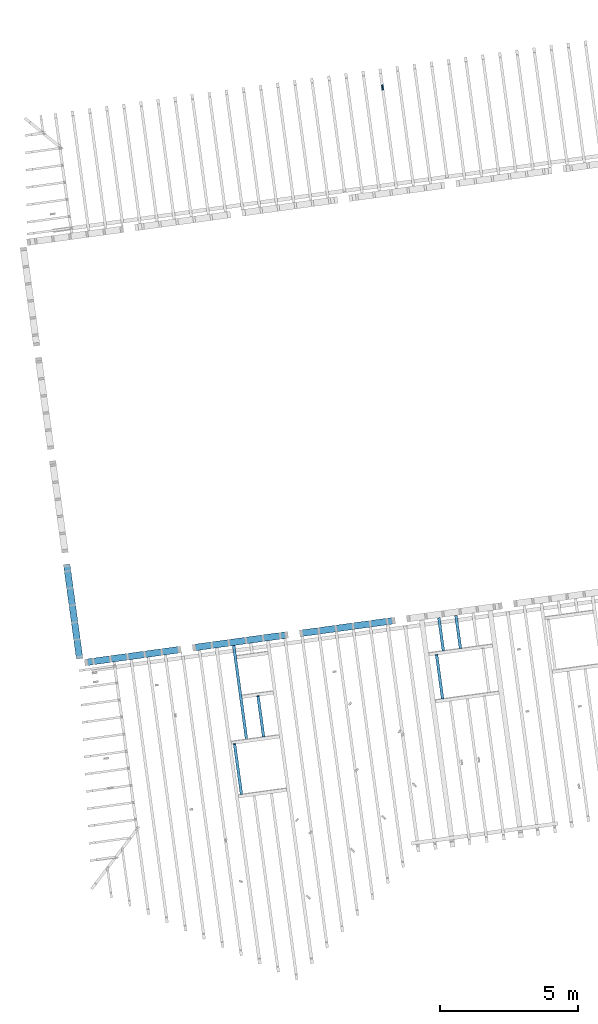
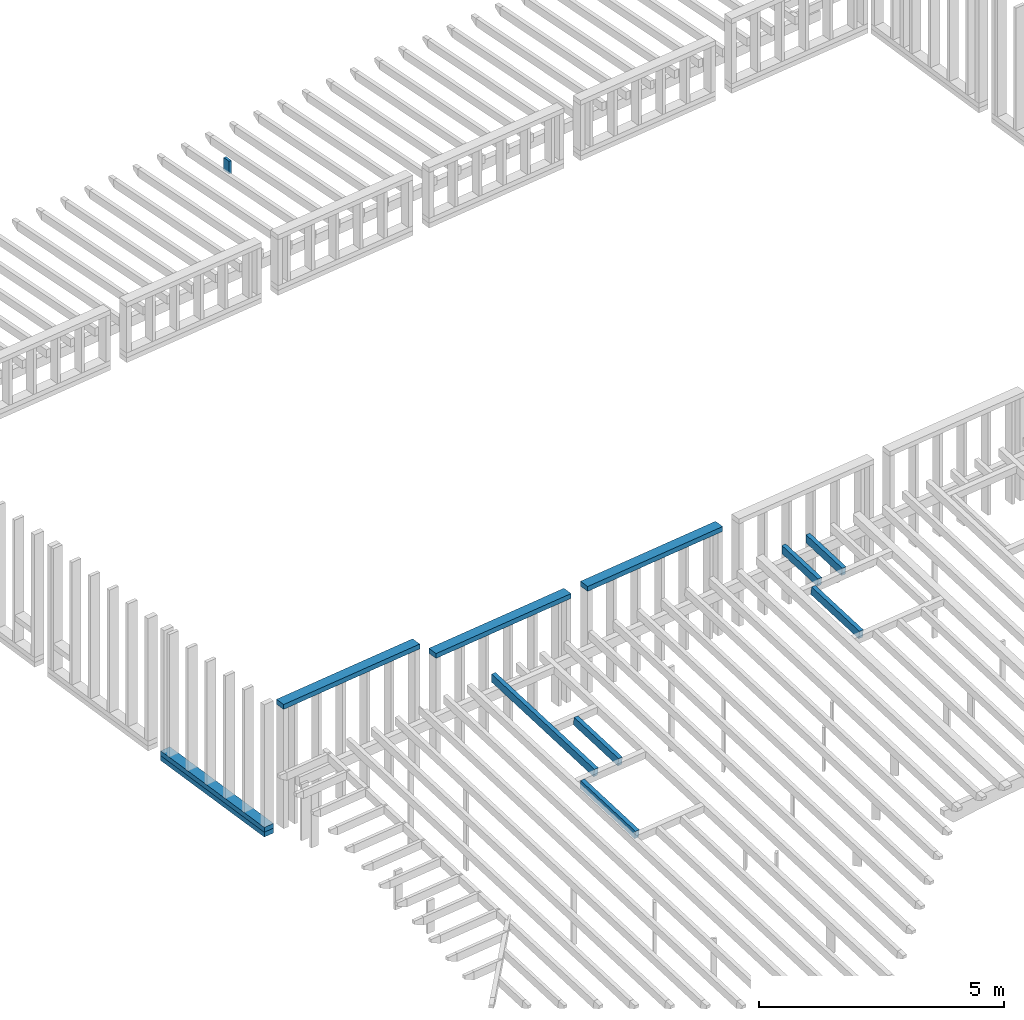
# One storey, part 4 of 16: 11 beams, 1 column.
"""IFC2X3 building model written with IfcOpenShell, lengths in metres."""

from ifc_helpers import new_model, entity, si_unit, converted_unit, derived_unit, money_unit, direction, frame, frame_2d, origin_with_axes, origin_2d_with_axis, place, context, subcontext, project, spatial, rectangle, extrude, clip, halfspace, material, type_object, element, save


model = new_model("IFC2X3")

# Units and contexts
model_context = context("Model", 3, precision=1e-05, world=origin_with_axes(), true_north=direction((0.0, 1.0)))
body_context = subcontext(model_context, "Body", "Model", "MODEL_VIEW")
ifc_project = project(units=[si_unit("LENGTHUNIT", "METRE"), si_unit("AREAUNIT", "SQUARE_METRE"), si_unit("VOLUMEUNIT", "CUBIC_METRE"), converted_unit("PLANEANGLEUNIT", "DEGREE", entity("IfcPlaneAngleMeasure", 0.0174532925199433), si_unit("PLANEANGLEUNIT", "RADIAN"), dimensions=[0, 0, 0, 0, 0, 0, 0]), money_unit("EUR"), converted_unit("TIMEUNIT", "Year", entity("IfcTimeMeasure", 31557600.0), si_unit("TIMEUNIT", "SECOND"), dimensions=[0, 0, 1, 0, 0, 0, 0]), si_unit("MASSUNIT", "GRAM", prefix="KILO"), si_unit("THERMODYNAMICTEMPERATUREUNIT", "DEGREE_CELSIUS"), si_unit("LUMINOUSINTENSITYUNIT", "LUMEN"), si_unit("ENERGYUNIT", "JOULE", prefix="MEGA"), derived_unit("THERMALCONDUCTANCEUNIT", [(si_unit("POWERUNIT", "WATT"), 1), (si_unit("LENGTHUNIT", "METRE"), -1), (si_unit("THERMODYNAMICTEMPERATUREUNIT", "KELVIN"), -1)]), derived_unit("SPECIFICHEATCAPACITYUNIT", [(si_unit("ENERGYUNIT", "JOULE"), 1), (si_unit("MASSUNIT", "GRAM", prefix="KILO"), -1), (si_unit("THERMODYNAMICTEMPERATUREUNIT", "KELVIN"), -1)]), derived_unit("MASSDENSITYUNIT", [(si_unit("MASSUNIT", "GRAM", prefix="KILO"), 1), (si_unit("VOLUMEUNIT", "CUBIC_METRE"), -1)])], contexts=[model_context])

# Site, building, storey
site_placement = place(None, origin_with_axes())
site = spatial("IfcSite", under=ifc_project, at=site_placement, Name="Gelände", CompositionType="ELEMENT")
building_placement = place(site_placement, origin_with_axes())
building = spatial("IfcBuilding", under=site, at=building_placement, Name="Gebäude", CompositionType="ELEMENT")
storey_placement = place(building_placement, frame((0.0, 0.0, 3.0), z_axis=(0.0, 0.0, 1.0), x_axis=(1.0, 0.0, 0.0)))
storey = spatial("IfcBuildingStorey", under=building, at=storey_placement, Name="ZG", CompositionType="ELEMENT", Elevation=3.0)

# Column
ifc_material_1 = material(Name="Bauholz")
column_type = type_object("IfcColumnType", Name="Bauholz 60 x 180", PredefinedType="NOTDEFINED")
column_placement = place(storey_placement, frame((97.5438329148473, -130.1573162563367, 0.1949999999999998), z_axis=(0.0, 0.0, 1.0), x_axis=(0.9907484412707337, 0.1357111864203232, 0.0)))
element("IfcColumn", 1, at=column_placement, inside=storey, type_object=column_type, material=ifc_material_1, Name="Stütze-018", context=body_context, shape_type="SweptSolid", body=[
    extrude(rectangle(XDim=0.06, YDim=0.18, at=origin_2d_with_axis()), origin_with_axes(), (0.0, 0.0, 1.0), 0.318538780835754),
])

# Beams
ifc_material_2 = material(Name="Holz, Bauholz")
beam_type_1 = type_object("IfcBeamType", Name="Holz, Bauholz 240 x 120", PredefinedType="NOTDEFINED")
beam_1_placement = place(storey_placement, frame((86.09987523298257, -147.4286763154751, 0.2719999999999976), z_axis=(0.0, 0.0, 1.0), x_axis=(-0.990748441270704, -0.135711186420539, 0.0)))
element("IfcBeam", 2, at=beam_1_placement, inside=storey, type_object=beam_type_1, material=ifc_material_2, Name="Unterzug-021", context=body_context, shape_type="SweptSolid", body=[
    extrude(rectangle(XDim=0.12, YDim=0.24, at=frame_2d((-0.06, 0.0), x_axis=(1.0, 0.0))), frame((0.0, 0.0, 0.0), z_axis=(0.0, 1.0, 0.0), x_axis=(0.0, 0.0, 1.0)), (0.0, 0.0, 1.0), 3.45999994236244),
])
ifc_material_3 = material(Name="Holz, Bauholz-hart")
beam_type_2 = type_object("IfcBeamType", Name="Holz, Bauholz-hart 240 x 120", PredefinedType="NOTDEFINED")
beam_2_placement = place(storey_placement, frame((86.09987523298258, -147.4286763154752, 0.1519999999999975), z_axis=(0.0, 0.0, 1.0), x_axis=(-0.990748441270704, -0.135711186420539, 0.0)))
element("IfcBeam", 3, at=beam_2_placement, inside=storey, type_object=beam_type_2, material=ifc_material_3, Name="Unterzug-021", context=body_context, shape_type="SweptSolid", body=[
    extrude(rectangle(XDim=0.12, YDim=0.24, at=frame_2d((-0.06, 0.0), x_axis=(1.0, 0.0))), frame((0.0, 0.0, 0.0), z_axis=(0.0, 1.0, 0.0), x_axis=(0.0, 0.0, 1.0)), (0.0, 0.0, 1.0), 3.45999994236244),
])
beam_type_3 = type_object("IfcBeamType", Name="Holz, Bauholz-hart 100 x 200", PredefinedType="NOTDEFINED")
beam_3_placement = place(storey_placement, frame((92.43312518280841, -155.7703148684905, 1.068813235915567), z_axis=(0.0, 0.0, 1.0), x_axis=(0.9907484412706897, 0.1357111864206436, 0.0)))
element("IfcBeam", 4, at=beam_3_placement, inside=storey, type_object=beam_type_3, material=ifc_material_3, Name="Unterzug-034", context=body_context, shape_type="SweptSolid", body=[
    extrude(rectangle(XDim=0.2, YDim=0.1, at=frame_2d((-0.1, 0.0), x_axis=(1.0, 0.0))), frame((0.0, 0.0, 0.0), z_axis=(0.0, 0.9902680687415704, 0.1391731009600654), x_axis=(0.0, -0.1391731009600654, 0.9902680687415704)), (0.0, 0.0, 1.0), 1.849999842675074),
])
beam_4_placement = place(storey_placement, frame((92.61669174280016, -153.7761218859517, 1.342985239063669), z_axis=(0.0, 0.0, 1.0), x_axis=(0.9907484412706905, 0.135711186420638, 0.0)))
element("IfcBeam", 5, at=beam_4_placement, inside=storey, type_object=beam_type_3, material=ifc_material_3, Name="Unterzug-034", context=body_context, shape_type="Clipping", body=[
    clip(extrude(rectangle(XDim=0.2, YDim=0.1, at=frame_2d((-0.1, 0.0), x_axis=(1.0, 0.0))), frame((0.0, 0.0, 0.0), z_axis=(0.0, 0.9902680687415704, 0.1391731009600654), x_axis=(0.0, -0.1391731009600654, 0.9902680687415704)), (0.0, 0.0, 1.0), 3.504597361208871), halfspace(frame((0.0, 3.431126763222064, 0.0), z_axis=(0.0, -1.0, 0.0), x_axis=(0.0, 0.0, -1.0)), True)),
])
beam_5_placement = place(storey_placement, frame((93.23590943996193, -153.6913016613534, 1.342985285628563), z_axis=(0.0, 0.0, 1.0), x_axis=(0.9907484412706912, 0.1357111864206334, 0.0)))
element("IfcBeam", 6, at=beam_5_placement, inside=storey, type_object=beam_type_3, material=ifc_material_3, Name="Unterzug-034", context=body_context, shape_type="SweptSolid", body=[
    extrude(rectangle(XDim=0.2, YDim=0.1, at=frame_2d((-0.1, 0.0), x_axis=(1.0, 0.0))), frame((0.0, 0.0, 0.0), z_axis=(0.0, 0.9902680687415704, 0.1391731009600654), x_axis=(0.0, -0.1391731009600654, 0.9902680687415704)), (0.0, 0.0, 1.0), 1.500668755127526),
])
beam_6_placement = place(storey_placement, frame((100.3668156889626, -150.4854928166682, 1.653356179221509), z_axis=(0.0, 0.0, 1.0), x_axis=(0.9907484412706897, 0.1357111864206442, 0.0)))
element("IfcBeam", 7, at=beam_6_placement, inside=storey, type_object=beam_type_3, material=ifc_material_3, Name="Unterzug-034", context=body_context, shape_type="Clipping", body=[
    clip(extrude(rectangle(XDim=0.2, YDim=0.1, at=frame_2d((-0.1, 0.0), x_axis=(1.0, 0.0))), frame((0.0, 0.0, 0.0), z_axis=(0.0, 0.9902680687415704, 0.1391731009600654), x_axis=(0.0, -0.1391731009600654, 0.9902680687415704)), (0.0, 0.0, 1.0), 1.261864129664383), halfspace(frame((0.0, 1.210219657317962, 0.0), z_axis=(0.0, -1.0, 0.0), x_axis=(0.0, 0.0, -1.0)), True)),
])
beam_7_placement = place(storey_placement, frame((99.74759957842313, -150.5703124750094, 1.653356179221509), z_axis=(0.0, 0.0, 1.0), x_axis=(0.9907484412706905, 0.1357111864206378, 0.0)))
element("IfcBeam", 8, at=beam_7_placement, inside=storey, type_object=beam_type_3, material=ifc_material_3, Name="Unterzug-034", context=body_context, shape_type="Clipping", body=[
    clip(extrude(rectangle(XDim=0.2, YDim=0.1, at=frame_2d((-0.1, 0.0), x_axis=(1.0, 0.0))), frame((0.0, 0.0, 0.0), z_axis=(0.0, 0.9902680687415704, 0.1391731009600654), x_axis=(0.0, -0.1391731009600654, 0.9902680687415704)), (0.0, 0.0, 1.0), 1.261864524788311), halfspace(frame((0.0, 1.210220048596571, 0.0), z_axis=(0.0, -1.0, 0.0), x_axis=(0.0, 0.0, -1.0)), True)),
])
beam_8_placement = place(storey_placement, frame((99.72060161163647, -152.311939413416, 1.411366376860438), z_axis=(0.0, 0.0, 1.0), x_axis=(0.9907484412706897, 0.1357111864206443, 0.0)))
element("IfcBeam", 9, at=beam_8_placement, inside=storey, type_object=beam_type_3, material=ifc_material_3, Name="Unterzug-034", context=body_context, shape_type="SweptSolid", body=[
    extrude(rectangle(XDim=0.2, YDim=0.1, at=frame_2d((-0.1, 0.0), x_axis=(1.0, 0.0))), frame((0.0, 0.0, 0.0), z_axis=(0.0, 0.9902680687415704, 0.1391731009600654), x_axis=(0.0, -0.1391731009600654, 0.9902680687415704)), (0.0, 0.0, 1.0), 1.618768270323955),
])
beam_type_4 = type_object("IfcBeamType", Name="Bauholz 240 x 120", PredefinedType="NOTDEFINED")
beam_9_placement = place(storey_placement, frame((86.75192238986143, -150.995181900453, 3.373933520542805), z_axis=(0.0, 0.0, 1.0), x_axis=(0.1357111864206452, -0.9907484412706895, 0.0)))
element("IfcBeam", 10, at=beam_9_placement, inside=storey, type_object=beam_type_4, material=ifc_material_1, Name="Unterzug-035", context=body_context, shape_type="SweptSolid", body=[
    extrude(rectangle(XDim=0.12, YDim=0.24, at=frame_2d((-0.06, 0.0), x_axis=(1.0, 0.0))), frame((0.0, 0.0, 0.0), z_axis=(0.0, 1.0, 0.0), x_axis=(0.0, 0.0, 1.0)), (0.0, 0.0, 1.0), 3.524285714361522),
])
beam_10_placement = place(storey_placement, frame((94.53948617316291, -149.9410702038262, 2.953933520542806), z_axis=(0.0, 0.0, 1.0), x_axis=(0.1357111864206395, -0.9907484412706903, 0.0)))
element("IfcBeam", 11, at=beam_10_placement, inside=storey, type_object=beam_type_4, material=ifc_material_1, Name="Unterzug-035", context=body_context, shape_type="SweptSolid", body=[
    extrude(rectangle(XDim=0.12, YDim=0.24, at=frame_2d((-0.06, 0.0), x_axis=(1.0, 0.0))), frame((0.0, 0.0, 0.0), z_axis=(0.0, 1.0, 0.0), x_axis=(0.0, 0.0, 1.0)), (0.0, 0.0, 1.0), 3.494285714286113),
])
beam_11_placement = place(storey_placement, frame((90.65971731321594, -150.4598982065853, 2.953933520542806), z_axis=(0.0, 0.0, 1.0), x_axis=(0.1357111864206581, -0.9907484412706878, 0.0)))
element("IfcBeam", 12, at=beam_11_placement, inside=storey, type_object=beam_type_4, material=ifc_material_1, Name="Unterzug-035", context=body_context, shape_type="SweptSolid", body=[
    extrude(rectangle(XDim=0.12, YDim=0.24, at=frame_2d((-0.06, 0.0), x_axis=(1.0, 0.0))), frame((0.0, 0.0, 0.0), z_axis=(0.0, 1.0, 0.0), x_axis=(0.0, 0.0, 1.0)), (0.0, 0.0, 1.0), 3.494285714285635),
])

save(model, "model.ifc")
